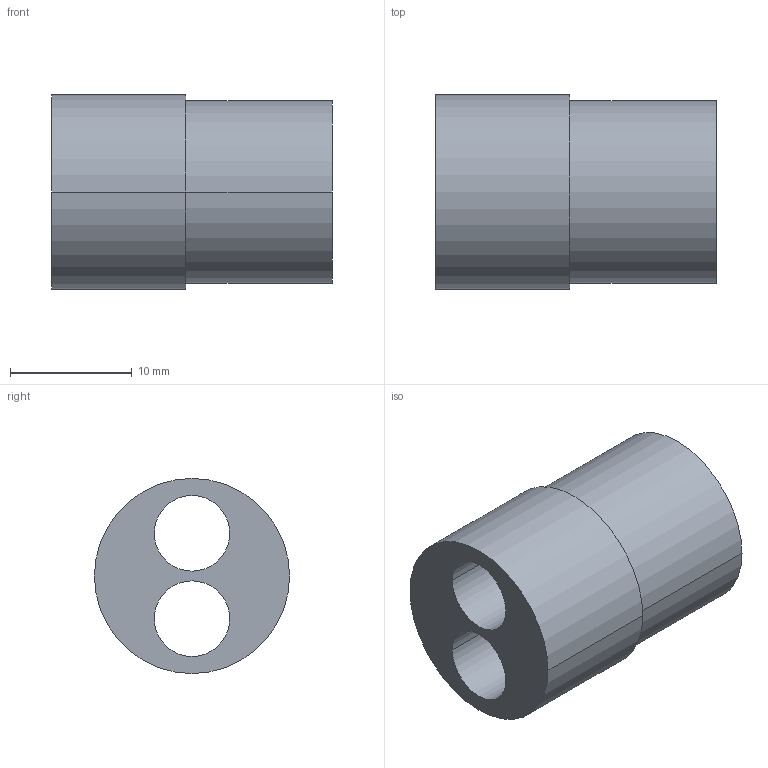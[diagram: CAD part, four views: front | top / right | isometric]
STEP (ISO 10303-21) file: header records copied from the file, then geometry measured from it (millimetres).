
FILE_DESCRIPTION(('Creo Elements/Direct Modeling STEP Export'),'2;1');
FILE_NAME('20120210_G13-602.stp','2012-02-15T14:51:04',(''),(''),'Creo Elements/Direct Modeling STEP processor for AP214 (Solid Model)','Creo Elements/Direct Modeling 18.0B 02-Dec-2011 (C) Parametric Technology GmbH','');
FILE_SCHEMA(('AUTOMOTIVE_DESIGN { 1 0 10303 214 1 1 1 1 }'));
Length unit declared in the file: millimetre
Products named in the file (1): G13-602
Bounding box: 23 x 16 x 16 mm (x, y, z)
Volume: 2943.5 mm3; surface area: 2295.8 mm2
Topology: 1 solids, 1 shells, 11 faces, 26 edges, 18 vertices
Faces by surface type: cylinder 8, plane 3
Entity records: 314 total; most frequent: ORIENTED_EDGE 52, DIRECTION 48, CARTESIAN_POINT 46, EDGE_CURVE 26, AXIS2_PLACEMENT_3D 20, VERTEX_POINT 18, EDGE_LOOP 16, FACE_OUTER_BOUND 11
